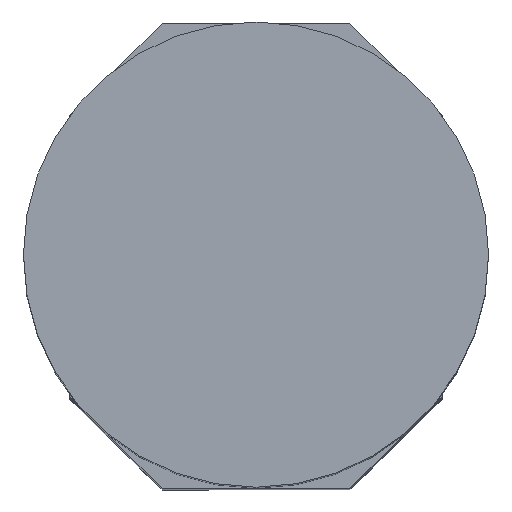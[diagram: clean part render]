
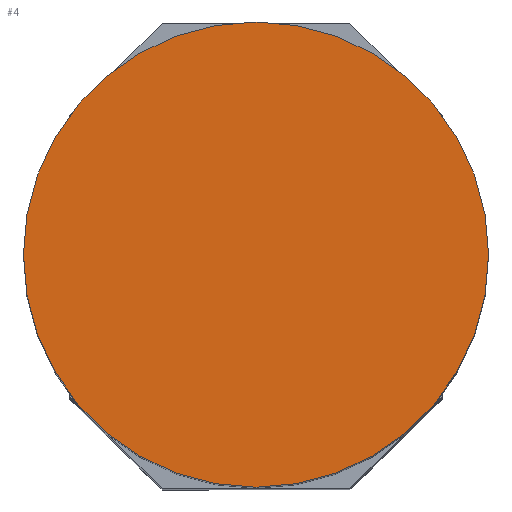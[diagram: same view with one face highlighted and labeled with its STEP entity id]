
A CAD part, top view. The second image highlights one B-rep face of the part: STEP entity #4.
In plain terms, the highlighted planar face has unit normal (0, 0, 1) as drawn and (-1, 0, 0) by its records, which use the part's own axes.
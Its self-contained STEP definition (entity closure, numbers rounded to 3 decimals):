
#4 = ADVANCED_FACE ( 'NONE', ( #256 ), #305, .T. ) ;
#28 = CARTESIAN_POINT ( 'NONE',  ( -6.8, 0., 2.5 ) ) ;
#73 = DIRECTION ( 'NONE',  ( 0., 0., 1. ) ) ;
#256 = FACE_OUTER_BOUND ( 'NONE', #918, .T. ) ;
#268 = AXIS2_PLACEMENT_3D ( 'NONE', #1898, #989, #2350 ) ;
#305 = PLANE ( 'NONE',  #1943 ) ;
#746 = ORIENTED_EDGE ( 'NONE', *, *, #1173, .F. ) ;
#918 = EDGE_LOOP ( 'NONE', ( #2611, #746 ) ) ;
#956 = DIRECTION ( 'NONE',  ( -1., 0., 0. ) ) ;
#962 = EDGE_CURVE ( 'NONE', #2438, #2432, #1258, .T. ) ;
#989 = DIRECTION ( 'NONE',  ( 1., 0., 0. ) ) ;
#997 = CARTESIAN_POINT ( 'NONE',  ( -6.8, 0., 0. ) ) ;
#1173 = EDGE_CURVE ( 'NONE', #2432, #2438, #1480, .T. ) ;
#1258 = CIRCLE ( 'NONE', #2152, 2.5 ) ;
#1480 = CIRCLE ( 'NONE', #268, 2.5 ) ;
#1856 = CARTESIAN_POINT ( 'NONE',  ( -6.8, 0., -2.5 ) ) ;
#1898 = CARTESIAN_POINT ( 'NONE',  ( -6.8, 0., 0. ) ) ;
#1943 = AXIS2_PLACEMENT_3D ( 'NONE', #997, #956, #73 ) ;
#2152 = AXIS2_PLACEMENT_3D ( 'NONE', #2721, #2487, #2732 ) ;
#2350 = DIRECTION ( 'NONE',  ( 0., 0., -1. ) ) ;
#2432 = VERTEX_POINT ( 'NONE', #28 ) ;
#2438 = VERTEX_POINT ( 'NONE', #1856 ) ;
#2487 = DIRECTION ( 'NONE',  ( 1., 0., 0. ) ) ;
#2611 = ORIENTED_EDGE ( 'NONE', *, *, #962, .F. ) ;
#2721 = CARTESIAN_POINT ( 'NONE',  ( -6.8, 0., 0. ) ) ;
#2732 = DIRECTION ( 'NONE',  ( 0., 0., -1. ) ) ;
